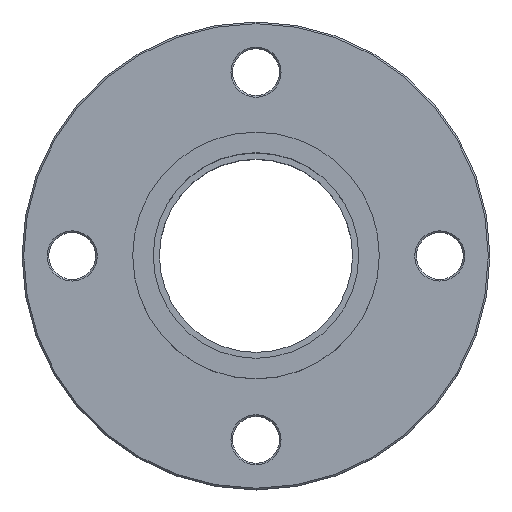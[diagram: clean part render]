
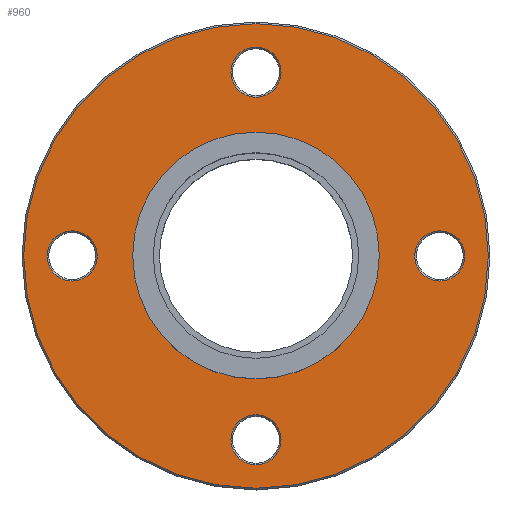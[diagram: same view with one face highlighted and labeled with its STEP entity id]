
A CAD part, top view. The second image highlights one B-rep face of the part: STEP entity #960.
In plain terms, the highlighted planar face has unit normal (0, 0, 1) as drawn and (0, 0, -1) by its records, which use the part's own axes.
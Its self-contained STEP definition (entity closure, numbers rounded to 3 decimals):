
#10=CARTESIAN_POINT('',(0.,0.,4.));
#20=DIRECTION('',(0.,0.,1.));
#30=DIRECTION('',(1.,0.,0.));
#40=AXIS2_PLACEMENT_3D('',#10,#20,#30);
#50=PLANE('',#40);
#60=CARTESIAN_POINT('',(110.,110.,4.));
#70=DIRECTION('',(0.,0.,1.));
#80=DIRECTION('',(0.,-1.,0.));
#90=AXIS2_PLACEMENT_3D('',#60,#70,#80);
#100=CIRCLE('',#90,32.5);
#110=CARTESIAN_POINT('',(110.,77.5,4.));
#120=VERTEX_POINT('',#110);
#130=CARTESIAN_POINT('',(110.,142.5,4.));
#140=VERTEX_POINT('',#130);
#150=EDGE_CURVE('',#120,#140,#100,.T.);
#160=ORIENTED_EDGE('',*,*,#150,.T.);
#170=EDGE_CURVE('',#140,#120,#100,.T.);
#180=ORIENTED_EDGE('',*,*,#170,.T.);
#190=EDGE_LOOP('',(#180,#160));
#200=FACE_BOUND('',#190,.T.);
#210=CARTESIAN_POINT('',(110.,55.,4.));
#220=DIRECTION('',(0.,0.,1.));
#230=DIRECTION('',(1.,0.,0.));
#240=AXIS2_PLACEMENT_3D('',#210,#220,#230);
#250=CIRCLE('',#240,7.5);
#260=CARTESIAN_POINT('',(117.5,55.,4.));
#270=VERTEX_POINT('',#260);
#280=CARTESIAN_POINT('',(102.5,55.,4.));
#290=VERTEX_POINT('',#280);
#300=EDGE_CURVE('',#270,#290,#250,.T.);
#310=ORIENTED_EDGE('',*,*,#300,.T.);
#320=EDGE_CURVE('',#290,#270,#250,.T.);
#330=ORIENTED_EDGE('',*,*,#320,.T.);
#340=EDGE_LOOP('',(#330,#310));
#350=FACE_BOUND('',#340,.T.);
#360=CARTESIAN_POINT('',(55.,110.,4.));
#370=DIRECTION('',(0.,0.,1.));
#380=DIRECTION('',(1.,0.,0.));
#390=AXIS2_PLACEMENT_3D('',#360,#370,#380);
#400=CIRCLE('',#390,7.5);
#410=CARTESIAN_POINT('',(62.5,110.,4.));
#420=VERTEX_POINT('',#410);
#430=CARTESIAN_POINT('',(47.5,110.,4.));
#440=VERTEX_POINT('',#430);
#450=EDGE_CURVE('',#420,#440,#400,.T.);
#460=ORIENTED_EDGE('',*,*,#450,.T.);
#470=EDGE_CURVE('',#440,#420,#400,.T.);
#480=ORIENTED_EDGE('',*,*,#470,.T.);
#490=EDGE_LOOP('',(#480,#460));
#500=FACE_BOUND('',#490,.T.);
#510=CARTESIAN_POINT('',(110.,165.,4.));
#520=DIRECTION('',(0.,0.,1.));
#530=DIRECTION('',(1.,0.,0.));
#540=AXIS2_PLACEMENT_3D('',#510,#520,#530);
#550=CIRCLE('',#540,7.5);
#560=CARTESIAN_POINT('',(117.5,165.,4.));
#570=VERTEX_POINT('',#560);
#580=CARTESIAN_POINT('',(102.5,165.,4.));
#590=VERTEX_POINT('',#580);
#600=EDGE_CURVE('',#570,#590,#550,.T.);
#610=ORIENTED_EDGE('',*,*,#600,.T.);
#620=EDGE_CURVE('',#590,#570,#550,.T.);
#630=ORIENTED_EDGE('',*,*,#620,.T.);
#640=EDGE_LOOP('',(#630,#610));
#650=FACE_BOUND('',#640,.T.);
#660=CARTESIAN_POINT('',(165.,110.,4.));
#670=DIRECTION('',(0.,0.,1.));
#680=DIRECTION('',(1.,0.,0.));
#690=AXIS2_PLACEMENT_3D('',#660,#670,#680);
#700=CIRCLE('',#690,7.5);
#710=CARTESIAN_POINT('',(172.5,110.,4.));
#720=VERTEX_POINT('',#710);
#730=CARTESIAN_POINT('',(157.5,110.,4.));
#740=VERTEX_POINT('',#730);
#750=EDGE_CURVE('',#720,#740,#700,.T.);
#760=ORIENTED_EDGE('',*,*,#750,.T.);
#770=EDGE_CURVE('',#740,#720,#700,.T.);
#780=ORIENTED_EDGE('',*,*,#770,.T.);
#790=EDGE_LOOP('',(#780,#760));
#800=FACE_BOUND('',#790,.T.);
#810=CARTESIAN_POINT('',(110.,110.,4.));
#820=DIRECTION('',(0.,0.,1.));
#830=DIRECTION('',(1.,0.,0.));
#840=AXIS2_PLACEMENT_3D('',#810,#820,#830);
#850=CIRCLE('',#840,69.5);
#860=CARTESIAN_POINT('',(179.5,110.,4.));
#870=VERTEX_POINT('',#860);
#880=CARTESIAN_POINT('',(40.5,110.,4.));
#890=VERTEX_POINT('',#880);
#900=EDGE_CURVE('',#870,#890,#850,.T.);
#910=ORIENTED_EDGE('',*,*,#900,.F.);
#920=EDGE_CURVE('',#890,#870,#850,.T.);
#930=ORIENTED_EDGE('',*,*,#920,.F.);
#940=EDGE_LOOP('',(#930,#910));
#950=FACE_OUTER_BOUND('',#940,.T.);
#960=ADVANCED_FACE('',(#200,#350,#500,#650,#800,#950),#50,.F.);
